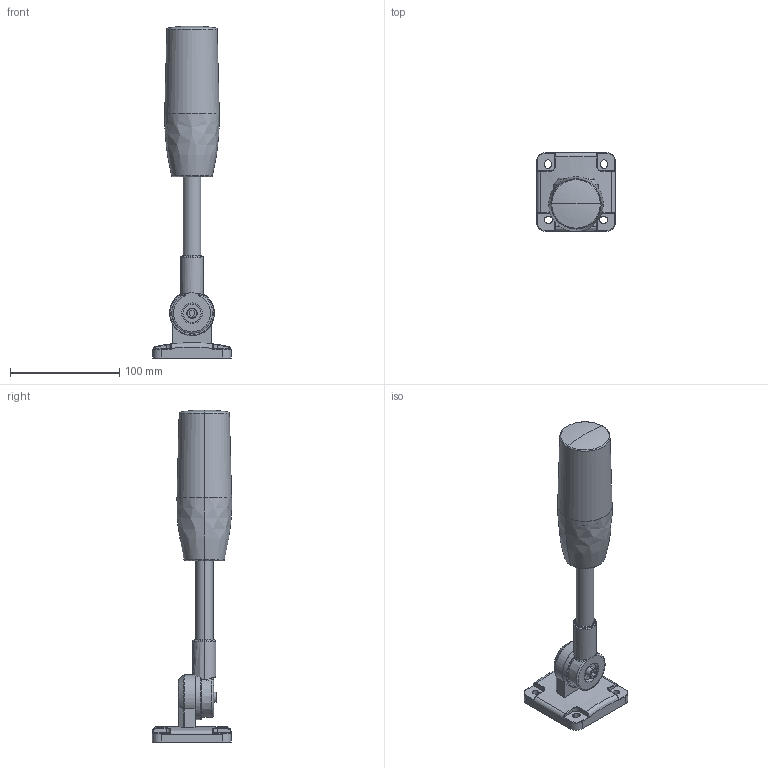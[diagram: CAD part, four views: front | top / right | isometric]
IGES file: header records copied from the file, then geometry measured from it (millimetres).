
Start section: IGES file generated by C3D Converter 1.6 translator by C3D Labs., translator version IGESOUT-5.1.
Global section: file name: C:\Users\Ìîíî\OneDrive\Desktop\øòóêè\Ñâåòîñèãíàëüíàÿ êîëîííà TL50B-220-RYG\Êîëîííà.igs; preprocessor: 1.0; author: Ìîíî; organization: unknown; date: -17760622:043454; units: millimetre
Bounding box: 72 x 72.5 x 304 mm (x, y, z)
Volume: 118861.4 mm3; surface area: 86796.4 mm2
Topology: 8 solids, 8 shells, 284 faces, 711 edges, 453 vertices
Faces by surface type: revolution 155, bspline 129
